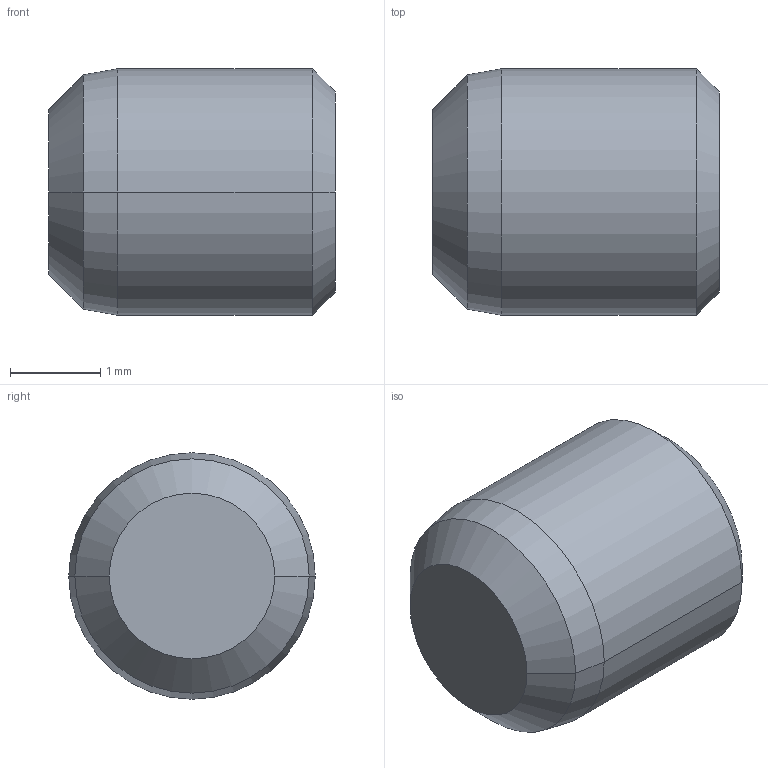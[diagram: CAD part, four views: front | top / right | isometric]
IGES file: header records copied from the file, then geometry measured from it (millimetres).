
Start section:  PTC IGES file: bb46.igs
Global section: file name: bb46.igs; native system: Pro/ENGINEER by Parametric Technology Corporation; preprocessor: 2002350; author: chant; organization: Unknown; date: 070705.140314; units: inch
Bounding box: 3.17 x 2.73 x 2.73 mm (x, y, z)
Surface area: 35.3 mm2 (no closed solid volume)
Topology: 0 solids, 0 shells, 13 faces, 65 edges, 75 vertices
Faces by surface type: revolution 10, bspline 3
